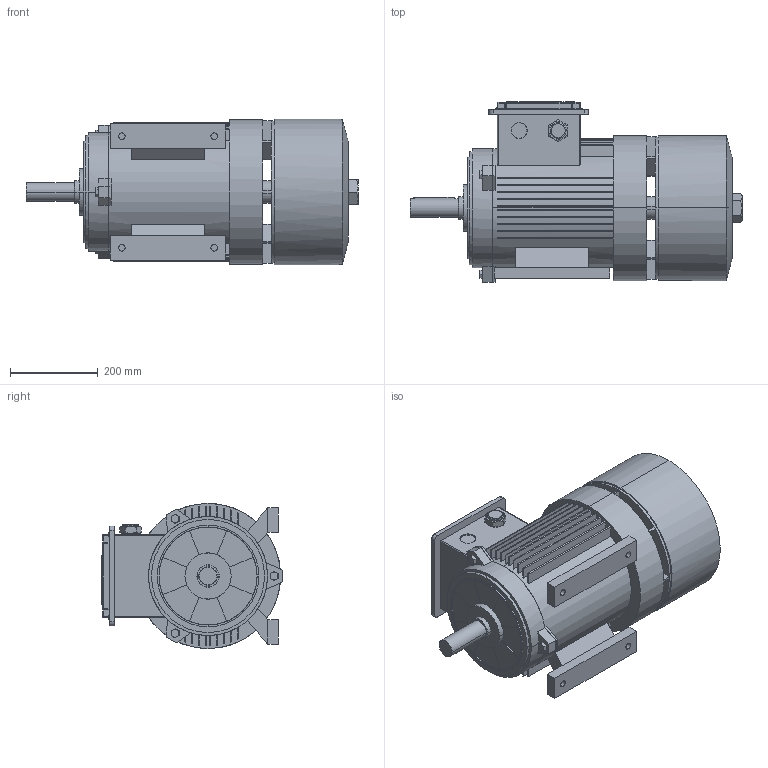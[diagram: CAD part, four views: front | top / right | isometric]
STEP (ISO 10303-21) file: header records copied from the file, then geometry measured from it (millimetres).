
FILE_DESCRIPTION (( 'STEP AP214' ), '1' );
FILE_NAME ('MBF 160M-B3.STEP', '2020-06-19T07:44:27', ( '' ), ( '' ), 'SwSTEP 2.0', 'SolidWorks 2016', '' );
FILE_SCHEMA (( 'AUTOMOTIVE_DESIGN' ));
Length unit declared in the file: millimetre
Products named in the file (1): MBF 160M-B3
Bounding box: 755 x 409.56 x 330 mm (x, y, z)
Surface area: 1593713.8 mm2 (no closed solid volume)
Topology: 0 solids, 14 shells, 762 faces, 2028 edges, 1302 vertices
Faces by surface type: plane 472, cylinder 141, bspline 101, cone 48
Entity records: 35743 total; most frequent: CARTESIAN_POINT 9014, ORIENTED_EDGE 4000, DIRECTION 3386, EDGE_CURVE 2016, VERTEX_POINT 1302, VECTOR 1284, LINE 1284, AXIS2_PLACEMENT_3D 1051
